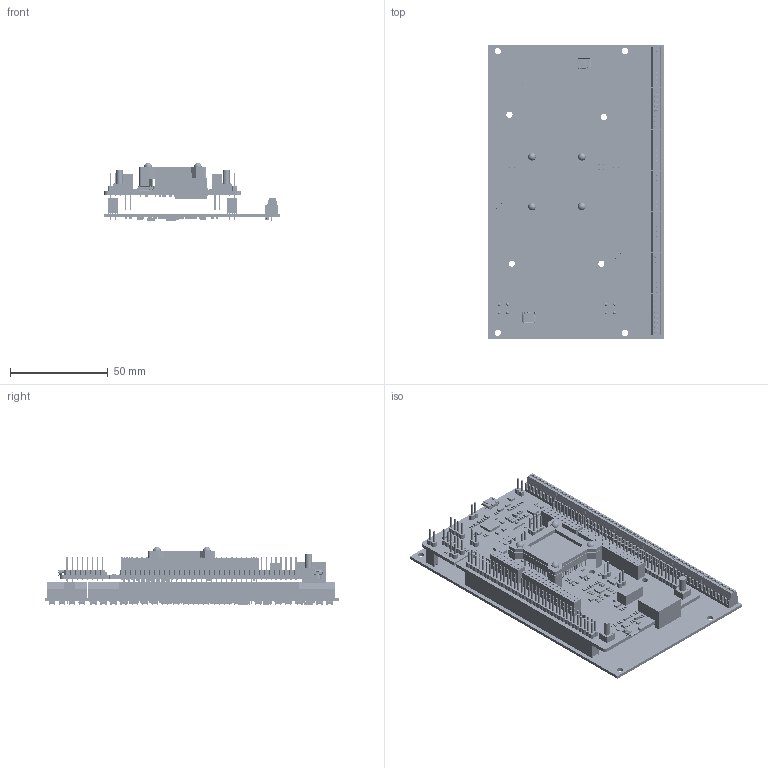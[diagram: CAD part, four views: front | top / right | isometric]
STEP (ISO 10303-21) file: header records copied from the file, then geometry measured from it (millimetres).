
FILE_DESCRIPTION(('Open CASCADE Model'),'2;1');
FILE_NAME('Open CASCADE Shape Model','2021-02-18T14:02:52',('Author'),( 'Open CASCADE'),'Open CASCADE STEP processor 6.8','Open CASCADE 6.8' ,'Unknown');
FILE_SCHEMA(('AUTOMOTIVE_DESIGN { 1 0 10303 214 1 1 1 1 }'));
Products named in the file (1): PCB
Bounding box: 90 x 150 x 29.75 mm (x, y, z)
Volume: 63584.6 mm3; surface area: 125431.3 mm2
Topology: 1810 solids, 9842 shells, 26159 faces, 85155 edges, 70252 vertices
Faces by surface type: plane 22845, cylinder 1844, bspline 1222, torus 168, cone 56, sphere 16, extrusion 8
Full cylindrical faces by diameter (mm): 0.7 x12, 0.85 x2, 1.02 x426, 1.2 x2, 1.3 x56, 1.5 x114, 1.7 x56, 2 x56, 2.1 x56, 3.2 x13, 3.5 x2, 5 x4
Entity records: 1087731 total; most frequent: CARTESIAN_POINT 279673, DIRECTION 137258, ORIENTED_EDGE 128392, EDGE_CURVE 85039, VECTOR 73470, LINE 73462, VERTEX_POINT 70080, AXIS2_PLACEMENT_3D 31894
